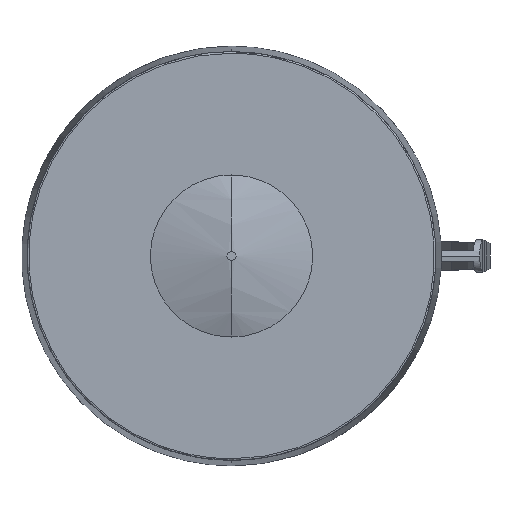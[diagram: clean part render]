
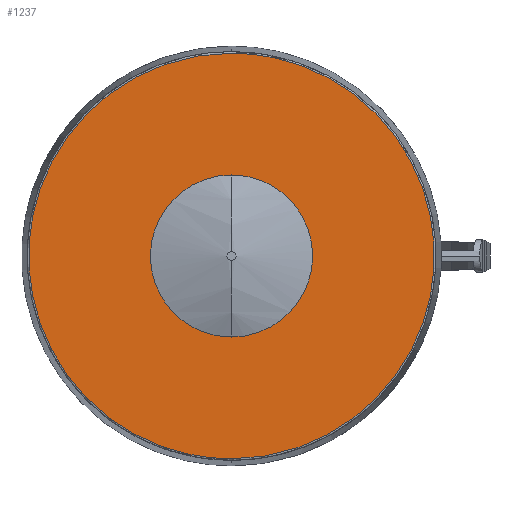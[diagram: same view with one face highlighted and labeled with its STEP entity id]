
A CAD part, front view. The second image highlights one B-rep face of the part: STEP entity #1237.
In plain terms, the highlighted planar face has unit normal (0, -1, 0).
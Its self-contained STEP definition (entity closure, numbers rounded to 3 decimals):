
#1237=ADVANCED_FACE('',(#2785,#2565),#21448,.T.);
#2565=FACE_BOUND('',#4200,.T.);
#2785=FACE_OUTER_BOUND('',#4199,.T.);
#4199=EDGE_LOOP('',(#6017,#6018));
#4200=EDGE_LOOP('',(#6019,#6020));
#6017=ORIENTED_EDGE('',*,*,#12514,.T.);
#6018=ORIENTED_EDGE('',*,*,#12513,.T.);
#6019=ORIENTED_EDGE('',*,*,#12509,.F.);
#6020=ORIENTED_EDGE('',*,*,#12510,.F.);
#12509=EDGE_CURVE('',#19492,#19493,#15905,.T.);
#12510=EDGE_CURVE('',#19493,#19492,#15906,.T.);
#12513=EDGE_CURVE('',#19495,#19494,#15909,.T.);
#12514=EDGE_CURVE('',#19494,#19495,#15910,.T.);
#15905=(
BOUNDED_CURVE()
B_SPLINE_CURVE(2,(#25651,#25652,#25653,#25654,#25655),.UNSPECIFIED.,.F.,
 .F.)
B_SPLINE_CURVE_WITH_KNOTS((3,2,3),(0.,40.038,80.076),
 .UNSPECIFIED.)
CURVE()
GEOMETRIC_REPRESENTATION_ITEM()
RATIONAL_B_SPLINE_CURVE((1.,0.707,1.,0.707,1.))
REPRESENTATION_ITEM('')
);
#15906=(
BOUNDED_CURVE()
B_SPLINE_CURVE(2,(#25656,#25657,#25658,#25659,#25660),.UNSPECIFIED.,.F.,
 .F.)
B_SPLINE_CURVE_WITH_KNOTS((3,2,3),(80.076,120.114,160.152),
 .UNSPECIFIED.)
CURVE()
GEOMETRIC_REPRESENTATION_ITEM()
RATIONAL_B_SPLINE_CURVE((1.,0.707,1.,0.707,1.))
REPRESENTATION_ITEM('')
);
#15909=(
BOUNDED_CURVE()
B_SPLINE_CURVE(2,(#25667,#25668,#25669,#25670,#25671),.UNSPECIFIED.,.F.,
 .F.)
B_SPLINE_CURVE_WITH_KNOTS((3,2,3),(200.387,300.581,400.774),
 .UNSPECIFIED.)
CURVE()
GEOMETRIC_REPRESENTATION_ITEM()
RATIONAL_B_SPLINE_CURVE((1.,0.707,1.,0.707,1.))
REPRESENTATION_ITEM('')
);
#15910=(
BOUNDED_CURVE()
B_SPLINE_CURVE(2,(#25672,#25673,#25674,#25675,#25676),.UNSPECIFIED.,.F.,
 .F.)
B_SPLINE_CURVE_WITH_KNOTS((3,2,3),(0.,100.194,200.387),
 .UNSPECIFIED.)
CURVE()
GEOMETRIC_REPRESENTATION_ITEM()
RATIONAL_B_SPLINE_CURVE((1.,0.707,1.,0.707,1.))
REPRESENTATION_ITEM('')
);
#19492=VERTEX_POINT('',#25509);
#19493=VERTEX_POINT('',#25510);
#19494=VERTEX_POINT('',#25511);
#19495=VERTEX_POINT('',#25512);
#21448=PLANE('',#21928);
#21928=AXIS2_PLACEMENT_3D('',#25139,#22324,$);
#22324=DIRECTION('',(0.,-1.,0.));
#25139=CARTESIAN_POINT('',(-77.152,-212.637,77.152));
#25509=CARTESIAN_POINT('',(0.,-212.637,-25.489));
#25510=CARTESIAN_POINT('',(0.,-212.637,25.489));
#25511=CARTESIAN_POINT('',(0.,-212.637,-63.785));
#25512=CARTESIAN_POINT('',(0.,-212.637,63.785));
#25651=CARTESIAN_POINT('',(0.,-212.637,-25.489));
#25652=CARTESIAN_POINT('',(25.489,-212.637,-25.489));
#25653=CARTESIAN_POINT('',(25.489,-212.637,0.));
#25654=CARTESIAN_POINT('',(25.489,-212.637,25.489));
#25655=CARTESIAN_POINT('',(0.,-212.637,25.489));
#25656=CARTESIAN_POINT('',(0.,-212.637,25.489));
#25657=CARTESIAN_POINT('',(-25.489,-212.637,25.489));
#25658=CARTESIAN_POINT('',(-25.489,-212.637,0.));
#25659=CARTESIAN_POINT('',(-25.489,-212.637,-25.489));
#25660=CARTESIAN_POINT('',(0.,-212.637,-25.489));
#25667=CARTESIAN_POINT('',(0.,-212.637,63.785));
#25668=CARTESIAN_POINT('',(-63.785,-212.637,63.785));
#25669=CARTESIAN_POINT('',(-63.785,-212.637,0.));
#25670=CARTESIAN_POINT('',(-63.785,-212.637,-63.785));
#25671=CARTESIAN_POINT('',(0.,-212.637,-63.785));
#25672=CARTESIAN_POINT('',(0.,-212.637,-63.785));
#25673=CARTESIAN_POINT('',(63.785,-212.637,-63.785));
#25674=CARTESIAN_POINT('',(63.785,-212.637,0.));
#25675=CARTESIAN_POINT('',(63.785,-212.637,63.785));
#25676=CARTESIAN_POINT('',(0.,-212.637,63.785));
